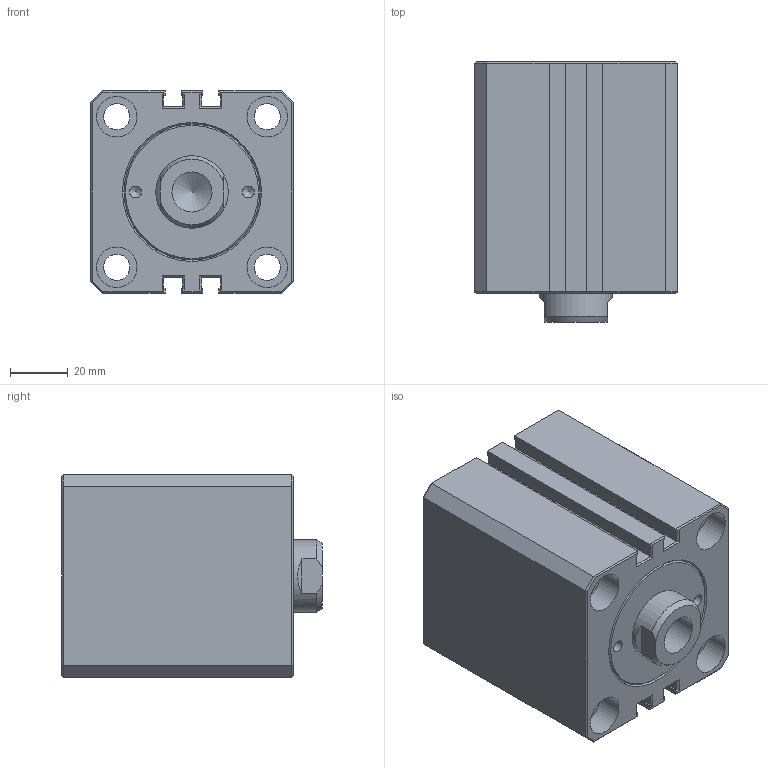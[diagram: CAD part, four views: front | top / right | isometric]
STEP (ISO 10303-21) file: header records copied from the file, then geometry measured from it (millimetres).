
FILE_DESCRIPTION(/* description */ ('Unknown'),/* implementation_level */ '2;1');
FILE_NAME(/* name */ 'HTM140-SD40X10N',/* time_stamp */ '2022-09-01T01:29:17+08:00',/* author */ ('Unknown'),/* organization */ ('Unknown'),/* preprocessor_version */ 'ST-DEVELOPER v16.7',/* originating_system */ 'DEX',/* authorisation */ $);
FILE_SCHEMA (('AUTOMOTIVE_DESIGN {1 0 10303 214 3 1 1}'));
Length unit declared in the file: millimetre
Products named in the file (1): HTM140-SD40X10N
Bounding box: 70 x 90 x 70 mm (x, y, z)
Volume: 349322.9 mm3; surface area: 47750.4 mm2
Topology: 1 solids, 1 shells, 187 faces, 428 edges, 257 vertices
Faces by surface type: plane 140, cylinder 19, cone 16, bspline 12
Full cylindrical faces by diameter (mm): 4.1 x2, 6 x1, 9 x4, 12.301 x2, 13.835 x1, 14 x8, 25 x1
Entity records: 6351 total; most frequent: CARTESIAN_POINT 1059, ORIENTED_EDGE 778, DIRECTION 768, EDGE_CURVE 389, LINE 294, VECTOR 294, VERTEX_POINT 248, FACE_BOUND 239
